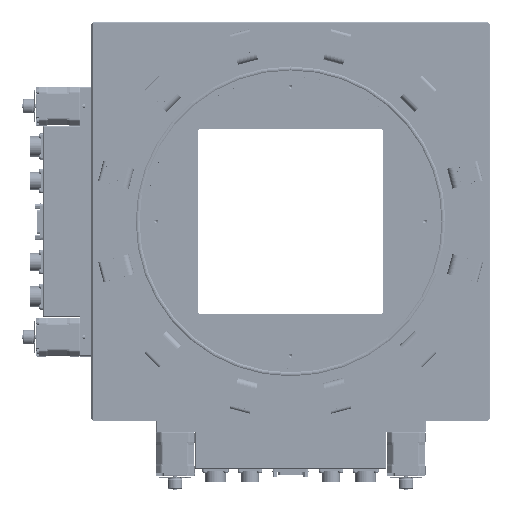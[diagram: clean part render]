
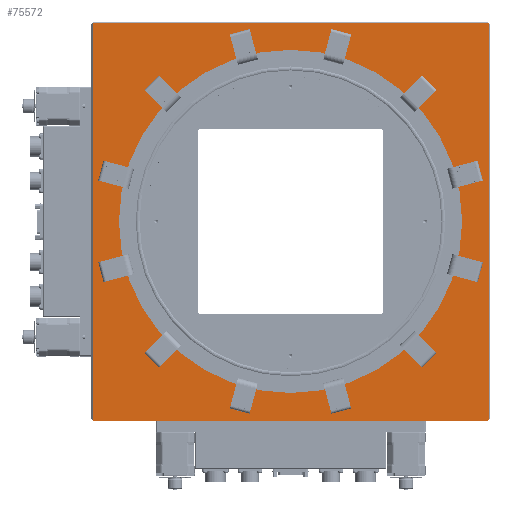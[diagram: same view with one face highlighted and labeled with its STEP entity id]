
A CAD part, top view. The second image highlights one B-rep face of the part: STEP entity #75572.
In plain terms, the highlighted planar face has unit normal (0, 0, 1) as drawn and (0, 0, -1) by its records, which use the part's own axes.
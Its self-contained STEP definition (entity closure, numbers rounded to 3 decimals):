
#10943=LINE('',#133148,#16689);
#10944=LINE('',#133150,#16690);
#10945=LINE('',#133152,#16691);
#10946=LINE('',#133154,#16692);
#10947=LINE('',#133156,#16693);
#10948=LINE('',#133157,#16694);
#16689=VECTOR('',#96839,427.5);
#16690=VECTOR('',#96840,1.414);
#16691=VECTOR('',#96841,425.);
#16692=VECTOR('',#96842,1.414);
#16693=VECTOR('',#96843,427.5);
#16694=VECTOR('',#96844,427.);
#19295=PLANE('',#81191);
#20626=FACE_BOUND('',#30727,.T.);
#20627=FACE_BOUND('',#30728,.T.);
#20628=FACE_BOUND('',#30729,.T.);
#20629=FACE_BOUND('',#30730,.T.);
#20630=FACE_BOUND('',#30731,.T.);
#20631=FACE_BOUND('',#30732,.T.);
#20632=FACE_BOUND('',#30733,.T.);
#20633=FACE_BOUND('',#30734,.T.);
#20634=FACE_BOUND('',#30735,.T.);
#20635=FACE_BOUND('',#30736,.T.);
#20636=FACE_BOUND('',#30737,.T.);
#20637=FACE_BOUND('',#30738,.T.);
#20638=FACE_BOUND('',#30739,.T.);
#25382=FACE_OUTER_BOUND('',#30726,.T.);
#30726=EDGE_LOOP('',(#68515,#68516,#68517,#68518,#68519,#68520));
#30727=EDGE_LOOP('',(#68521));
#30728=EDGE_LOOP('',(#68522));
#30729=EDGE_LOOP('',(#68523));
#30730=EDGE_LOOP('',(#68524));
#30731=EDGE_LOOP('',(#68525));
#30732=EDGE_LOOP('',(#68526));
#30733=EDGE_LOOP('',(#68527));
#30734=EDGE_LOOP('',(#68528));
#30735=EDGE_LOOP('',(#68529));
#30736=EDGE_LOOP('',(#68530));
#30737=EDGE_LOOP('',(#68531));
#30738=EDGE_LOOP('',(#68532));
#30739=EDGE_LOOP('',(#68533));
#33437=CIRCLE('',#81100,5.053);
#33439=CIRCLE('',#81104,5.053);
#33441=CIRCLE('',#81108,5.053);
#33443=CIRCLE('',#81112,5.053);
#33445=CIRCLE('',#81116,5.053);
#33447=CIRCLE('',#81120,5.053);
#33449=CIRCLE('',#81124,5.053);
#33451=CIRCLE('',#81128,5.053);
#33453=CIRCLE('',#81132,5.053);
#33455=CIRCLE('',#81136,5.053);
#33457=CIRCLE('',#81140,5.053);
#33459=CIRCLE('',#81144,5.053);
#33480=CIRCLE('',#81189,159.);
#39734=VERTEX_POINT('',#132942);
#39736=VERTEX_POINT('',#132948);
#39738=VERTEX_POINT('',#132954);
#39740=VERTEX_POINT('',#132960);
#39742=VERTEX_POINT('',#132966);
#39744=VERTEX_POINT('',#132972);
#39746=VERTEX_POINT('',#132978);
#39748=VERTEX_POINT('',#132984);
#39750=VERTEX_POINT('',#132990);
#39752=VERTEX_POINT('',#132996);
#39754=VERTEX_POINT('',#133002);
#39756=VERTEX_POINT('',#133008);
#39801=VERTEX_POINT('',#133142);
#39802=VERTEX_POINT('',#133146);
#39803=VERTEX_POINT('',#133147);
#39804=VERTEX_POINT('',#133149);
#39805=VERTEX_POINT('',#133151);
#39806=VERTEX_POINT('',#133153);
#39807=VERTEX_POINT('',#133155);
#49510=EDGE_CURVE('',#39734,#39734,#33437,.T.);
#49512=EDGE_CURVE('',#39736,#39736,#33439,.T.);
#49514=EDGE_CURVE('',#39738,#39738,#33441,.T.);
#49516=EDGE_CURVE('',#39740,#39740,#33443,.T.);
#49518=EDGE_CURVE('',#39742,#39742,#33445,.T.);
#49520=EDGE_CURVE('',#39744,#39744,#33447,.T.);
#49522=EDGE_CURVE('',#39746,#39746,#33449,.T.);
#49524=EDGE_CURVE('',#39748,#39748,#33451,.T.);
#49526=EDGE_CURVE('',#39750,#39750,#33453,.T.);
#49528=EDGE_CURVE('',#39752,#39752,#33455,.T.);
#49530=EDGE_CURVE('',#39754,#39754,#33457,.T.);
#49532=EDGE_CURVE('',#39756,#39756,#33459,.T.);
#49597=EDGE_CURVE('',#39801,#39801,#33480,.T.);
#49598=EDGE_CURVE('',#39802,#39803,#10943,.T.);
#49599=EDGE_CURVE('',#39804,#39802,#10944,.T.);
#49600=EDGE_CURVE('',#39805,#39804,#10945,.T.);
#49601=EDGE_CURVE('',#39806,#39805,#10946,.T.);
#49602=EDGE_CURVE('',#39807,#39806,#10947,.T.);
#49603=EDGE_CURVE('',#39803,#39807,#10948,.T.);
#68515=ORIENTED_EDGE('',*,*,#49598,.F.);
#68516=ORIENTED_EDGE('',*,*,#49599,.F.);
#68517=ORIENTED_EDGE('',*,*,#49600,.F.);
#68518=ORIENTED_EDGE('',*,*,#49601,.F.);
#68519=ORIENTED_EDGE('',*,*,#49602,.F.);
#68520=ORIENTED_EDGE('',*,*,#49603,.F.);
#68521=ORIENTED_EDGE('',*,*,#49510,.T.);
#68522=ORIENTED_EDGE('',*,*,#49512,.T.);
#68523=ORIENTED_EDGE('',*,*,#49514,.T.);
#68524=ORIENTED_EDGE('',*,*,#49516,.T.);
#68525=ORIENTED_EDGE('',*,*,#49518,.T.);
#68526=ORIENTED_EDGE('',*,*,#49520,.T.);
#68527=ORIENTED_EDGE('',*,*,#49522,.T.);
#68528=ORIENTED_EDGE('',*,*,#49524,.T.);
#68529=ORIENTED_EDGE('',*,*,#49526,.T.);
#68530=ORIENTED_EDGE('',*,*,#49528,.T.);
#68531=ORIENTED_EDGE('',*,*,#49530,.T.);
#68532=ORIENTED_EDGE('',*,*,#49532,.T.);
#68533=ORIENTED_EDGE('',*,*,#49597,.T.);
#75572=ADVANCED_FACE('',(#25382,#20626,#20627,#20628,#20629,#20630,#20631,
#20632,#20633,#20634,#20635,#20636,#20637,#20638),#19295,.F.);
#81100=AXIS2_PLACEMENT_3D('',#132943,#96611,#96612);
#81104=AXIS2_PLACEMENT_3D('',#132949,#96619,#96620);
#81108=AXIS2_PLACEMENT_3D('',#132955,#96627,#96628);
#81112=AXIS2_PLACEMENT_3D('',#132961,#96635,#96636);
#81116=AXIS2_PLACEMENT_3D('',#132967,#96643,#96644);
#81120=AXIS2_PLACEMENT_3D('',#132973,#96651,#96652);
#81124=AXIS2_PLACEMENT_3D('',#132979,#96659,#96660);
#81128=AXIS2_PLACEMENT_3D('',#132985,#96667,#96668);
#81132=AXIS2_PLACEMENT_3D('',#132991,#96675,#96676);
#81136=AXIS2_PLACEMENT_3D('',#132997,#96683,#96684);
#81140=AXIS2_PLACEMENT_3D('',#133003,#96691,#96692);
#81144=AXIS2_PLACEMENT_3D('',#133009,#96699,#96700);
#81189=AXIS2_PLACEMENT_3D('',#133143,#96833,#96834);
#81191=AXIS2_PLACEMENT_3D('',#133145,#96837,#96838);
#96611=DIRECTION('center_axis',(0.,0.,1.));
#96612=DIRECTION('ref_axis',(-0.866,0.5,0.));
#96619=DIRECTION('center_axis',(0.,0.,1.));
#96620=DIRECTION('ref_axis',(-0.5,0.866,0.));
#96627=DIRECTION('center_axis',(0.,0.,1.));
#96628=DIRECTION('ref_axis',(0.,1.,0.));
#96635=DIRECTION('center_axis',(0.,0.,1.));
#96636=DIRECTION('ref_axis',(0.5,0.866,0.));
#96643=DIRECTION('center_axis',(0.,0.,1.));
#96644=DIRECTION('ref_axis',(0.866,0.5,0.));
#96651=DIRECTION('center_axis',(0.,0.,1.));
#96652=DIRECTION('ref_axis',(1.,0.,0.));
#96659=DIRECTION('center_axis',(0.,0.,1.));
#96660=DIRECTION('ref_axis',(0.866,-0.5,0.));
#96667=DIRECTION('center_axis',(0.,0.,1.));
#96668=DIRECTION('ref_axis',(0.5,-0.866,0.));
#96675=DIRECTION('center_axis',(0.,0.,1.));
#96676=DIRECTION('ref_axis',(0.,-1.,0.));
#96683=DIRECTION('center_axis',(0.,0.,1.));
#96684=DIRECTION('ref_axis',(-0.5,-0.866,0.));
#96691=DIRECTION('center_axis',(0.,0.,1.));
#96692=DIRECTION('ref_axis',(-0.866,-0.5,0.));
#96699=DIRECTION('center_axis',(0.,0.,1.));
#96700=DIRECTION('ref_axis',(-1.,0.,0.));
#96833=DIRECTION('center_axis',(0.,0.,1.));
#96834=DIRECTION('ref_axis',(1.,0.,0.));
#96837=DIRECTION('center_axis',(0.,0.,1.));
#96838=DIRECTION('ref_axis',(1.,0.,0.));
#96839=DIRECTION('',(1.,0.,0.));
#96840=DIRECTION('',(0.707,-0.707,0.));
#96841=DIRECTION('',(0.,-1.,0.));
#96842=DIRECTION('',(-0.707,-0.707,0.));
#96843=DIRECTION('',(-1.,0.,0.));
#96844=DIRECTION('',(0.,1.,0.));
#132942=CARTESIAN_POINT('',(-359.03,357.18,-57.));
#132943=CARTESIAN_POINT('Origin',(-354.654,354.654,-57.));
#132948=CARTESIAN_POINT('',(-268.643,410.146,-57.));
#132949=CARTESIAN_POINT('Origin',(-266.117,405.77,-57.));
#132954=CARTESIAN_POINT('',(-163.883,410.823,-57.));
#132955=CARTESIAN_POINT('Origin',(-163.883,405.77,-57.));
#132960=CARTESIAN_POINT('',(-72.82,359.03,-57.));
#132961=CARTESIAN_POINT('Origin',(-75.346,354.654,-57.));
#132966=CARTESIAN_POINT('',(-19.854,268.643,-57.));
#132967=CARTESIAN_POINT('Origin',(-24.23,266.117,-57.));
#132972=CARTESIAN_POINT('',(-19.177,163.883,-57.));
#132973=CARTESIAN_POINT('Origin',(-24.23,163.883,-57.));
#132978=CARTESIAN_POINT('',(-70.97,72.82,-57.));
#132979=CARTESIAN_POINT('Origin',(-75.346,75.346,-57.));
#132984=CARTESIAN_POINT('',(-161.357,19.854,-57.));
#132985=CARTESIAN_POINT('Origin',(-163.883,24.23,-57.));
#132990=CARTESIAN_POINT('',(-266.117,19.177,-57.));
#132991=CARTESIAN_POINT('Origin',(-266.117,24.23,-57.));
#132996=CARTESIAN_POINT('',(-357.18,70.97,-57.));
#132997=CARTESIAN_POINT('Origin',(-354.654,75.346,-57.));
#133002=CARTESIAN_POINT('',(-410.146,161.357,-57.));
#133003=CARTESIAN_POINT('Origin',(-405.77,163.883,-57.));
#133008=CARTESIAN_POINT('',(-410.823,266.117,-57.));
#133009=CARTESIAN_POINT('Origin',(-405.77,266.117,-57.));
#133142=CARTESIAN_POINT('',(-374.,215.,-57.));
#133143=CARTESIAN_POINT('Origin',(-215.,215.,-57.));
#133145=CARTESIAN_POINT('Origin',(-215.,215.,-57.));
#133146=CARTESIAN_POINT('',(-429.,1.5,-57.));
#133147=CARTESIAN_POINT('',(-1.5,1.5,-57.));
#133148=CARTESIAN_POINT('',(-322.5,1.5,-57.));
#133149=CARTESIAN_POINT('',(-430.,2.5,-57.));
#133150=CARTESIAN_POINT('',(-428.75,1.25,-57.));
#133151=CARTESIAN_POINT('',(-430.,427.5,-57.));
#133152=CARTESIAN_POINT('',(-430.,0.,-57.));
#133153=CARTESIAN_POINT('',(-429.,428.5,-57.));
#133154=CARTESIAN_POINT('',(-428.75,428.75,-57.));
#133155=CARTESIAN_POINT('',(-1.5,428.5,-57.));
#133156=CARTESIAN_POINT('',(-107.5,428.5,-57.));
#133157=CARTESIAN_POINT('',(-1.5,107.5,-57.));
